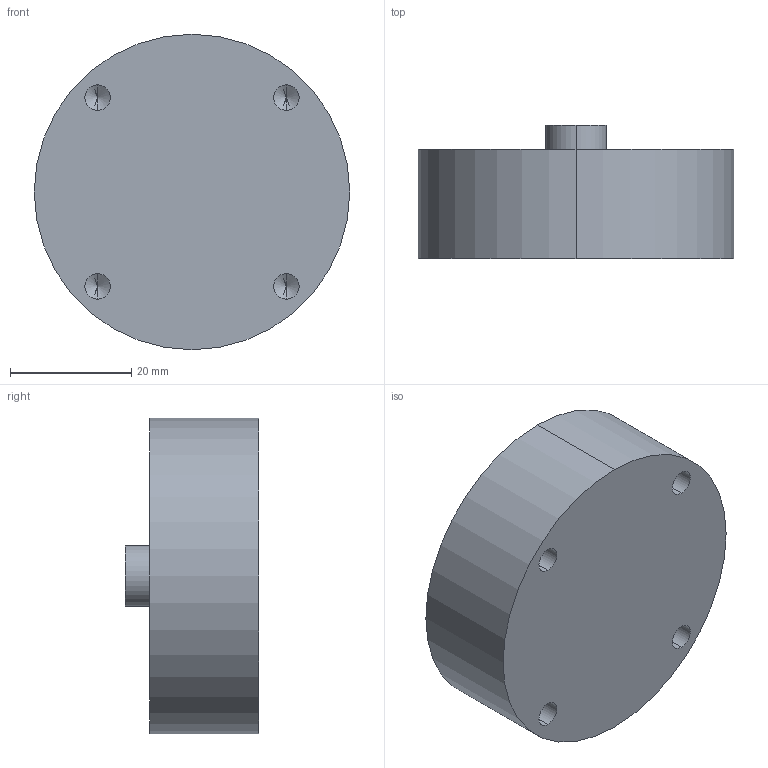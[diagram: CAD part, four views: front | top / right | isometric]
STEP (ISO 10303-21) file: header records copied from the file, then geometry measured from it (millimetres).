
FILE_DESCRIPTION (( 'STEP AP203' ), '1' );
FILE_NAME ('rsb2.STEP', '2013-02-01T02:14:54', ( '' ), ( '' ), 'SwSTEP 2.0', 'SolidWorks 2009', '' );
FILE_SCHEMA (( 'CONFIG_CONTROL_DESIGN' ));
Length unit declared in the file: millimetre
Products named in the file (1): rsb2
Bounding box: 52 x 22 x 52 mm (x, y, z)
Volume: 37397.1 mm3; surface area: 7970.7 mm2
Topology: 1 solids, 1 shells, 26 faces, 58 edges, 32 vertices
Faces by surface type: cylinder 14, cone 8, plane 4
Entity records: 747 total; most frequent: DIRECTION 132, CARTESIAN_POINT 109, ORIENTED_EDGE 100, AXIS2_PLACEMENT_3D 55, EDGE_CURVE 50, EDGE_LOOP 32, VERTEX_POINT 32, CIRCLE 28
